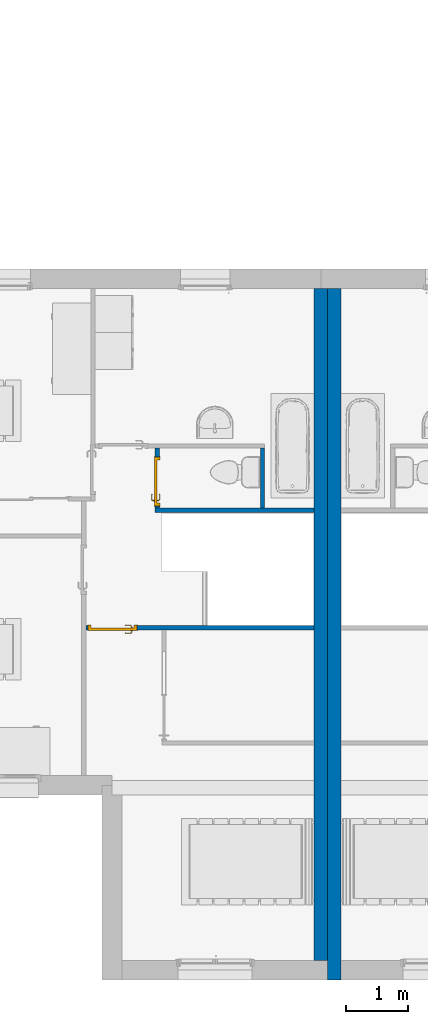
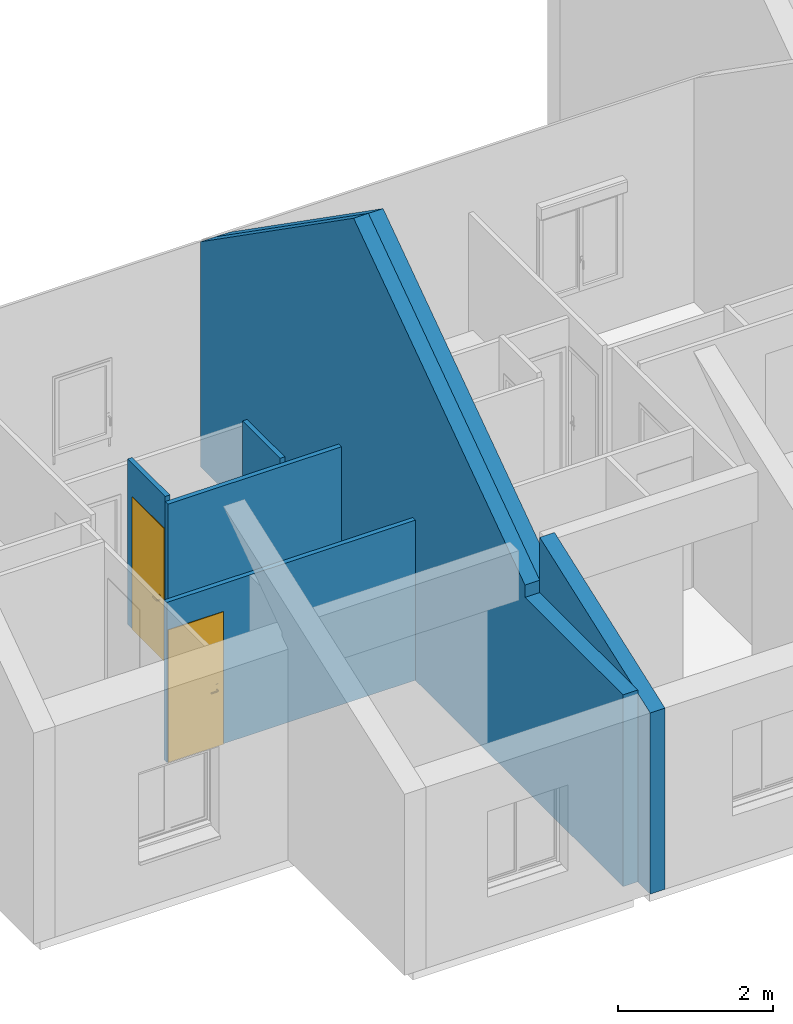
# One storey, part 12 of 61: 6 walls, 2 doors, 2 openings.
"""IFC2X3 building model written with IfcOpenShell, lengths in metres."""

import ifcopenshell
import ifcopenshell.guid

model = None  # the IFC model being written
_history = None  # IfcOwnerHistory: only IFC2X3 demands one
_inside = {}  # id of a spatial element -> (the spatial element, [elements in it])
_under = {}  # id of a project, library or spatial element -> (it, [spatial elements below it])
_declared = {}  # id of a project -> (the project, [libraries it declares])
_typed = {}  # id of a type object -> (the type object, [elements of that type])
_made_of = {}  # id of a material, layer set ... -> (it, [elements and type objects made of it])


def new_model(schema):
    """Start an empty IFC model of exactly this schema.

    Asked for "IFC4X3", IfcOpenShell would pick the latest addendum, in which some entities
    have other attributes; the version numbers below select the first issue.
    IFC2X3 requires an IfcOwnerHistory on every rooted entity: one is made here for all.
    """
    global model, _history
    if schema == "IFC4X3":
        model = ifcopenshell.file(schema_version=(4, 3, 0, 0))
    else:
        model = ifcopenshell.file(schema=schema)
    _inside.clear()
    _under.clear()
    _declared.clear()
    _typed.clear()
    _made_of.clear()
    _history = None
    if model.schema == "IFC2X3":
        org = make("IfcOrganization", Name="unknown")
        user = make(
            "IfcPersonAndOrganization",
            ThePerson=make("IfcPerson", FamilyName="unknown"),
            TheOrganization=org,
        )
        app = make(
            "IfcApplication",
            ApplicationDeveloper=org,
            Version="unknown",
            ApplicationFullName="unknown",
            ApplicationIdentifier="unknown",
        )
        _history = make(
            "IfcOwnerHistory",
            OwningUser=user,
            OwningApplication=app,
            ChangeAction="ADDED",
            CreationDate=0,
        )
    return model


def make(cls, **values):
    """One entity of the class cls with the attributes given. An attribute that is None is left unset."""
    return model.create_entity(
        cls, **{name: value for name, value in values.items() if value is not None}
    )


def entity(cls, *values):
    """Any entity or typed value of the class cls, its attributes in the order of the schema. None: left unset."""
    e = model.create_entity(cls)
    for i, value in enumerate(values):
        if value is not None:
            e[i] = value
    return e


def rooted(cls, **values):
    """An entity with a GlobalId (a new one), such as an element, a storey or a relation."""
    return make(cls, GlobalId=ifcopenshell.guid.new(), OwnerHistory=_history, **values)


def si_unit(unit_type, name, prefix=None):
    """IfcSIUnit, for example si_unit("LENGTHUNIT", "METRE", prefix="MILLI")."""
    return make("IfcSIUnit", UnitType=unit_type, Prefix=prefix, Name=name)


def converted_unit(unit_type, name, factor, base, dimensions=None, offset=None):
    """IfcConversionBasedUnit, such as the inch: factor (a typed value) times the base unit."""
    return make(
        "IfcConversionBasedUnit"
        if offset is None
        else "IfcConversionBasedUnitWithOffset",
        ConversionOffset=offset,
        Dimensions=None
        if dimensions is None
        else entity("IfcDimensionalExponents", *dimensions),
        UnitType=unit_type,
        Name=name,
        ConversionFactor=make(
            "IfcMeasureWithUnit", ValueComponent=factor, UnitComponent=base
        ),
    )


def derived_unit(unit_type, elements):
    """IfcDerivedUnit: a product of units, each with its exponent."""
    return make(
        "IfcDerivedUnit",
        Elements=[
            make("IfcDerivedUnitElement", Unit=unit, Exponent=power)
            for unit, power in elements
        ],
        UnitType=unit_type,
    )


def assignment(units):
    """IfcUnitAssignment: the units of a project."""
    return None if units is None else make("IfcUnitAssignment", Units=units)


def point(xyz):
    """IfcCartesianPoint."""
    return None if xyz is None else make("IfcCartesianPoint", Coordinates=xyz)


def direction(xyz):
    """IfcDirection."""
    return None if xyz is None else make("IfcDirection", DirectionRatios=xyz)


def frame(location, z_axis=None, x_axis=None):
    """IfcAxis2Placement3D, a coordinate frame: its origin and axes. An axis left out is left unset."""
    return make(
        "IfcAxis2Placement3D",
        Location=point(location),
        Axis=direction(z_axis),
        RefDirection=direction(x_axis),
    )


def frame_2d(location, x_axis=None):
    """IfcAxis2Placement2D, a coordinate frame in the plane: its origin and x axis."""
    return make(
        "IfcAxis2Placement2D", Location=point(location), RefDirection=direction(x_axis)
    )


def origin():
    """The frame at (0, 0, 0) with its axes left unset."""
    return frame((0.0, 0.0, 0.0))


def place(relative_to, where):
    """IfcLocalPlacement: puts the frame where relative to a parent placement (None: the world)."""
    return make(
        "IfcLocalPlacement", PlacementRelTo=relative_to, RelativePlacement=where
    )


def context(
    kind, dimensions, precision=None, world=None, true_north=None, identifier=None
):
    """IfcGeometricRepresentationContext, for example the 3D "Model" context."""
    return make(
        "IfcGeometricRepresentationContext",
        ContextIdentifier=identifier,
        ContextType=kind,
        CoordinateSpaceDimension=dimensions,
        Precision=precision,
        WorldCoordinateSystem=world,
        TrueNorth=true_north,
    )


def subcontext(parent, identifier, kind, view, scale=None):
    """IfcGeometricRepresentationSubContext, for example "Body" below "Model"."""
    return make(
        "IfcGeometricRepresentationSubContext",
        ContextIdentifier=identifier,
        ContextType=kind,
        ParentContext=parent,
        TargetScale=scale,
        TargetView=view,
    )


def project(units=None, contexts=None):
    """IfcProject with its units and contexts."""
    return rooted(
        "IfcProject",
        Name="project",
        RepresentationContexts=contexts,
        UnitsInContext=assignment(units),
    )


def spatial(cls, under=None, at=None, **own):
    """A site, building, storey or space (cls), placed at a placement, below another one or the project."""
    s = rooted(cls, ObjectPlacement=at, **own)
    if under is not None:
        _under.setdefault(under.id(), (under, []))[1].append(s)
    return s


def polyline(points):
    """IfcPolyline through the points."""
    return make("IfcPolyline", Points=[point(p) for p in points])


def profile(cls, at=None, kind="AREA", **sizes):
    """A parametric profile (cls). Its sizes go by their IFC names, for example OverallWidth=200.0."""
    return make(cls, ProfileType=kind, Position=at, **sizes)


def rectangle(**sizes):
    """IfcRectangleProfileDef."""
    return profile("IfcRectangleProfileDef", **sizes)


def extrude(swept, where, along, depth):
    """IfcExtrudedAreaSolid: the profile swept, set in the frame where, extruded along a direction by depth."""
    return make(
        "IfcExtrudedAreaSolid",
        SweptArea=swept,
        Position=where,
        ExtrudedDirection=direction(along),
        Depth=depth,
    )


def clip(a, b, op="DIFFERENCE"):
    """IfcBooleanClippingResult: the solid a cut by the half space b."""
    return make(
        "IfcBooleanClippingResult", Operator=op, FirstOperand=a, SecondOperand=b
    )


def bounded_halfspace(plane, agree, where, boundary):
    """IfcPolygonalBoundedHalfSpace: a half space limited to a polygon's prism."""
    return make(
        "IfcPolygonalBoundedHalfSpace",
        BaseSurface=make("IfcPlane", Position=plane),
        AgreementFlag=agree,
        Position=where,
        PolygonalBoundary=boundary,
    )


def faces_of(points, faces, orient=None, outer=None):
    """IfcFace entities. A face is a list of loops; a loop is a list of indices into points, from 0.

    orient and outer hold one flag for each loop. By default every Orientation is true, the
    first loop of a face is its IfcFaceOuterBound and the others are IfcFaceBound.
    """
    made = []
    for i, loops in enumerate(faces):
        bounds = []
        for j, loop in enumerate(loops):
            is_outer = j == 0 if outer is None else outer[i][j]
            bounds.append(
                make(
                    "IfcFaceOuterBound" if is_outer else "IfcFaceBound",
                    Bound=make("IfcPolyLoop", Polygon=[points[k] for k in loop]),
                    Orientation=True if orient is None else orient[i][j],
                )
            )
        made.append(make("IfcFace", Bounds=bounds))
    return made


def faceted_brep(points, faces, orient=None, outer=None, voids=None):
    """IfcFacetedBrep: a solid bounded by flat faces; with voids (closed shells), ...WithVoids."""
    shared = [point(p) for p in points]
    hull = make("IfcClosedShell", CfsFaces=faces_of(shared, faces, orient, outer))
    if voids is None:
        return make("IfcFacetedBrep", Outer=hull)
    return make(
        "IfcFacetedBrepWithVoids",
        Outer=hull,
        Voids=[
            make(cls, CfsFaces=faces_of(shared, fs, o, b)) for cls, fs, o, b in voids
        ],
    )


def shape(context_of_items, identifier, shape_type, items):
    """IfcShapeRepresentation: the items that make up one representation, for example the "Body"."""
    return make(
        "IfcShapeRepresentation",
        ContextOfItems=context_of_items,
        RepresentationIdentifier=identifier,
        RepresentationType=shape_type,
        Items=items,
    )


def source(mapping_origin, context_of_items, identifier, shape_type, items):
    """IfcRepresentationMap: a shape defined once, which mapped items show again and again."""
    return make(
        "IfcRepresentationMap",
        MappingOrigin=mapping_origin,
        MappedRepresentation=shape(context_of_items, identifier, shape_type, items),
    )


def transform(
    local_origin,
    x_axis=None,
    y_axis=None,
    z_axis=None,
    scale=None,
    scale2=None,
    scale3=None,
    uniform=True,
):
    """IfcCartesianTransformationOperator3D, or its non-uniform kind. x_axis, y_axis, z_axis: its Axis1, 2, 3."""
    if uniform:
        return make(
            "IfcCartesianTransformationOperator3D",
            Axis1=direction(x_axis),
            Axis2=direction(y_axis),
            LocalOrigin=point(local_origin),
            Scale=scale,
            Axis3=direction(z_axis),
        )
    return make(
        "IfcCartesianTransformationOperator3DnonUniform",
        Axis1=direction(x_axis),
        Axis2=direction(y_axis),
        LocalOrigin=point(local_origin),
        Scale=scale,
        Axis3=direction(z_axis),
        Scale2=scale2,
        Scale3=scale3,
    )


def mapped(mapping_source, mapping_target):
    """IfcMappedItem: shows the shape of a source again, moved by a transform."""
    return make(
        "IfcMappedItem", MappingSource=mapping_source, MappingTarget=mapping_target
    )


def material(Name=None, Category=None):
    """IfcMaterial."""
    return make("IfcMaterial", Name=Name, Category=Category)


def material_list(materials):
    """IfcMaterialList."""
    return make("IfcMaterialList", Materials=materials)


def layer(
    of_material, thickness, ventilated=None, Name=None, Category=None, Priority=None
):
    """IfcMaterialLayer: one layer of a wall or slab, of a material (None: an air gap)."""
    return make(
        "IfcMaterialLayer",
        Material=of_material,
        LayerThickness=thickness,
        IsVentilated=ventilated,
        Name=Name,
        Category=Category,
        Priority=Priority,
    )


def layer_set(layers, Name=None):
    """IfcMaterialLayerSet."""
    return make("IfcMaterialLayerSet", MaterialLayers=layers, LayerSetName=Name)


def layer_usage(for_layer_set, set_direction, sense, offset, extent=None):
    """IfcMaterialLayerSetUsage: how a layer set lies in its element."""
    return make(
        "IfcMaterialLayerSetUsage",
        ForLayerSet=for_layer_set,
        LayerSetDirection=set_direction,
        DirectionSense=sense,
        OffsetFromReferenceLine=offset,
        ReferenceExtent=extent,
    )


def made_of(thing, what):
    """Note that an element or type object is made of a material, layer set ...; save() writes the relation."""
    if what is not None:
        _made_of.setdefault(what.id(), (what, []))[1].append(thing)
    return thing


def type_object(cls, material=None, **own):
    """A type object (cls), such as IfcWallType, which elements share."""
    return made_of(rooted(cls, **own), material)


def type_shapes(of_type, sources):
    """Give a type object the sources (RepresentationMaps) that its elements show as mapped items."""
    of_type.RepresentationMaps = sources


def element(
    cls,
    number,
    at=None,
    inside=None,
    cuts=None,
    type_object=None,
    material=None,
    context=None,
    identifier="Body",
    shape_type=None,
    held_by="IfcProductDefinitionShape",
    body=None,
    shapes=None,
    **own,
):
    """One element of the class cls, such as IfcWall. Its Tag is "e" and its number.

    at: its placement. inside: the storey or other place that contains it. cuts: it is an
    opening in that element (IfcRelVoidsElement). A single representation is given by context,
    identifier, shape_type and body (its items); several are given by shapes. held_by: the class
    of the entity that holds the representations. save() writes the other relations.
    """
    e = rooted(cls, Tag="e%d" % number, ObjectPlacement=at, **own)
    if body is not None:
        shapes = [shape(context, identifier, shape_type, body)]
    if shapes is not None:
        e.Representation = make(held_by, Representations=shapes)
    if inside is not None:
        _inside.setdefault(inside.id(), (inside, []))[1].append(e)
    if cuts is not None:
        rooted(
            "IfcRelVoidsElement", RelatingBuildingElement=cuts, RelatedOpeningElement=e
        )
    if type_object is not None:
        _typed.setdefault(type_object.id(), (type_object, []))[1].append(e)
    return made_of(e, material)


def fill(opening, filler):
    """IfcRelFillsElement: the door or window that sits in an opening."""
    return rooted(
        "IfcRelFillsElement",
        RelatingOpeningElement=opening,
        RelatedBuildingElement=filler,
    )


def aggregate(whole, parts):
    """IfcRelAggregates: a whole, such as a stair, and the parts it consists of."""
    return rooted("IfcRelAggregates", RelatingObject=whole, RelatedObjects=parts)


def save(model, path):
    """Write the relations noted so far, then the file.

    IfcRelAggregates (storeys below a building ...), IfcRelContainedInSpatialStructure (elements
    in a storey), IfcRelDefinesByType, IfcRelAssociatesMaterial and IfcRelDeclares: one each for
    every whole, place, type object, material and project.
    """
    for whole, parts in _under.values():
        aggregate(whole, parts)
    for where, things in _inside.values():
        rooted(
            "IfcRelContainedInSpatialStructure",
            RelatedElements=things,
            RelatingStructure=where,
        )
    for kind, things in _typed.values():
        rooted("IfcRelDefinesByType", RelatedObjects=things, RelatingType=kind)
    for what, things in _made_of.values():
        rooted("IfcRelAssociatesMaterial", RelatedObjects=things, RelatingMaterial=what)
    for by, libraries in _declared.values():
        rooted("IfcRelDeclares", RelatingContext=by, RelatedDefinitions=libraries)
    model.write(path)


model = new_model("IFC2X3")

# Units and contexts
model_context = context("Model", 3, precision=1e-05, world=origin(), true_north=direction((6.12303176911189e-17, 1.0)))
body_context = subcontext(model_context, "Body", "Model", "MODEL_VIEW")
ifc_project = project(units=[si_unit("LENGTHUNIT", "METRE"), si_unit("AREAUNIT", "SQUARE_METRE"), si_unit("VOLUMEUNIT", "CUBIC_METRE"), converted_unit("PLANEANGLEUNIT", "DEGREE", entity("IfcRatioMeasure", 0.0174532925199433), si_unit("PLANEANGLEUNIT", "RADIAN"), dimensions=[0, 0, 0, 0, 0, 0, 0]), si_unit("MASSUNIT", "GRAM", prefix="KILO"), derived_unit("MASSDENSITYUNIT", [(si_unit("MASSUNIT", "GRAM", prefix="KILO"), 1), (si_unit("LENGTHUNIT", "METRE"), -3)]), si_unit("TIMEUNIT", "SECOND"), si_unit("FREQUENCYUNIT", "HERTZ"), si_unit("THERMODYNAMICTEMPERATUREUNIT", "DEGREE_CELSIUS"), derived_unit("THERMALTRANSMITTANCEUNIT", [(si_unit("MASSUNIT", "GRAM", prefix="KILO"), 1), (si_unit("THERMODYNAMICTEMPERATUREUNIT", "KELVIN"), -1), (si_unit("TIMEUNIT", "SECOND"), -3)]), derived_unit("VOLUMETRICFLOWRATEUNIT", [(si_unit("LENGTHUNIT", "METRE"), 3), (si_unit("TIMEUNIT", "SECOND"), -1)]), si_unit("ELECTRICCURRENTUNIT", "AMPERE"), si_unit("ELECTRICVOLTAGEUNIT", "VOLT"), si_unit("POWERUNIT", "WATT"), si_unit("FORCEUNIT", "NEWTON", prefix="KILO"), si_unit("ILLUMINANCEUNIT", "LUX"), si_unit("LUMINOUSFLUXUNIT", "LUMEN"), si_unit("LUMINOUSINTENSITYUNIT", "CANDELA"), derived_unit("USERDEFINED", [(si_unit("MASSUNIT", "GRAM", prefix="KILO"), -1), (si_unit("LENGTHUNIT", "METRE"), -2), (si_unit("TIMEUNIT", "SECOND"), 3), (si_unit("LUMINOUSFLUXUNIT", "LUMEN"), 1)]), derived_unit("LINEARVELOCITYUNIT", [(si_unit("LENGTHUNIT", "METRE"), 1), (si_unit("TIMEUNIT", "SECOND"), -1)]), si_unit("PRESSUREUNIT", "PASCAL"), derived_unit("USERDEFINED", [(si_unit("LENGTHUNIT", "METRE"), -2), (si_unit("MASSUNIT", "GRAM", prefix="KILO"), 1), (si_unit("TIMEUNIT", "SECOND"), -2)])], contexts=[model_context])

# Site, building, storey
site_placement = place(None, origin())
site = spatial("IfcSite", under=ifc_project, at=site_placement, Name="Surface", CompositionType="ELEMENT")
building_placement = place(site_placement, origin())
building = spatial("IfcBuilding", under=site, at=building_placement, CompositionType="ELEMENT")
storey_placement = place(building_placement, frame((0.0, 0.0, 2.82)))
storey = spatial("IfcBuildingStorey", under=building, at=storey_placement, Name="ETAGE", CompositionType="ELEMENT", Elevation=2.82)

# Wall, opening, door
ifc_material_1 = material(Name="Peinture - Blanc")
ifc_layer_1 = layer(ifc_material_1, 0.07)
ifc_layer_set_1 = layer_set([ifc_layer_1], Name="Mur de base:Int.  Platre 70 mm en blanc")
ifc_layer_usage_1 = layer_usage(ifc_layer_set_1, "AXIS2", "POSITIVE", -0.035)
wall_type_1 = type_object("IfcWallType", Name="Mur de base:Int.  Platre 70 mm en blanc", PredefinedType="STANDARD", material=ifc_layer_set_1)
wall_1_placement = place(storey_placement, frame((64.9146263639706, 82.6027566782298, 0.0)))
wall_1 = element("IfcWallStandardCase", 1, at=wall_1_placement, inside=storey, type_object=wall_type_1, material=ifc_layer_usage_1, Name="Mur de base:Int.  Platre 70 mm en blanc", ObjectType="Mur de base:Int.  Platre 70 mm en blanc", context=body_context, shape_type="SweptSolid", body=[
    extrude(rectangle(XDim=3.70038340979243, YDim=0.0699999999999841, at=frame_2d((1.85019170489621, -3.51801920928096e-15), x_axis=(-1.0, 0.0))), origin(), (0.0, 0.0, 1.0), 2.52),
])
opening_1_placement = place(wall_1_placement, frame((0.829999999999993, 0.0350000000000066, 0.0)))
opening_1 = element("IfcOpeningElement", 2, at=opening_1_placement, cuts=wall_1, Name="FR_Simple (R):73 x 204 - (70):1", ObjectType="Opening", context=body_context, shape_type="SweptSolid", body=[
    extrude(rectangle(XDim=2.075, YDim=0.799999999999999, at=frame_2d((1.0375, 0.4), x_axis=(1.0, 0.0))), frame((0.0, 0.0, 0.0), z_axis=(0.0, -1.0, 0.0), x_axis=(0.0, 0.0, 1.0)), (0.0, 0.0, 1.0), 0.07),
])
ifc_material_2 = material(Name="Poignée Porte")
ifc_material_3 = material(Name="Dormants Portes")
ifc_material_4 = material(Name="Panneaux Portes")
ifc_material_list_1 = material_list([ifc_material_2, ifc_material_3, ifc_material_4])
ifc_material_list_2 = material_list([ifc_material_2, ifc_material_3, ifc_material_4])
door_style = type_object("IfcDoorStyle", Name="73 x 204 - (70)", ConstructionType="NOTDEFINED", OperationType="SINGLE_SWING_RIGHT", ParameterTakesPrecedence=False, Sizeable=False, material=ifc_material_list_2)
shared_shape = source(origin(), body_context, "Body", "Brep", [
    faceted_brep([(0.710000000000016, -0.0130000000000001, 0.764641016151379), (0.720352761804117, -0.0130000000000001, 0.766003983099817), (0.730000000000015, -0.0130000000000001, 0.770000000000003), (0.730000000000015, -0.0130000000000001, 0.980000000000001), (0.720352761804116, -0.0130000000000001, 0.983996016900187), (0.710000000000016, -0.0130000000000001, 0.985358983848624), (0.699647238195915, -0.0130000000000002, 0.983996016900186), (0.690000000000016, -0.0130000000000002, 0.980000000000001), (0.690000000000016, -0.0130000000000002, 0.770000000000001), (0.699647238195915, -0.0130000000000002, 0.766003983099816), (0.730000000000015, -0.00800000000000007, 0.980000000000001), (0.730000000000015, -0.00800000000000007, 0.770000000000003), (0.720352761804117, -0.0080000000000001, 0.766003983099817), (0.710000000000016, -0.00800000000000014, 0.764641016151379), (0.699647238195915, -0.00800000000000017, 0.766003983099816), (0.690000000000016, -0.00800000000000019, 0.770000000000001), (0.690000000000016, -0.00800000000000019, 0.980000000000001), (0.699647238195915, -0.00800000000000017, 0.983996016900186), (0.710000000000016, -0.00800000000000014, 0.985358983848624), (0.720352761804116, -0.0080000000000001, 0.983996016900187)], [[[0, 1, 2, 3, 4, 5, 6, 7, 8, 9]], [[10, 11, 12, 13, 14, 15, 16, 17, 18, 19]], [[1, 12, 11, 2]], [[0, 13, 12, 1]], [[9, 14, 13, 0]], [[9, 8, 15, 14]], [[15, 8, 7, 16]], [[6, 17, 16, 7]], [[5, 18, 17, 6]], [[4, 19, 18, 5]], [[4, 3, 10, 19]], [[10, 3, 2, 11]]]),
    faceted_brep([(0.730000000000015, 0.0319999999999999, 0.770000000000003), (0.730000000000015, 0.0319999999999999, 0.980000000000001), (0.720352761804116, 0.0319999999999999, 0.983996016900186), (0.710000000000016, 0.0319999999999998, 0.985358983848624), (0.699647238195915, 0.0319999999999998, 0.983996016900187), (0.690000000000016, 0.0319999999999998, 0.980000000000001), (0.690000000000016, 0.0319999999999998, 0.770000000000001), (0.699647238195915, 0.0319999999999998, 0.766003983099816), (0.710000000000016, 0.0319999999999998, 0.764641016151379), (0.720352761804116, 0.0319999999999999, 0.766003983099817), (0.710000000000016, 0.0369999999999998, 0.985358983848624), (0.720352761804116, 0.0369999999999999, 0.983996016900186), (0.730000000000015, 0.0369999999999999, 0.980000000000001), (0.730000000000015, 0.0369999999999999, 0.770000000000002), (0.720352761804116, 0.0369999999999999, 0.766003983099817), (0.710000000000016, 0.0369999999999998, 0.764641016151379), (0.699647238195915, 0.0369999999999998, 0.766003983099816), (0.690000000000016, 0.0369999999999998, 0.770000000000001), (0.690000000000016, 0.0369999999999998, 0.980000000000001), (0.699647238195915, 0.0369999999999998, 0.983996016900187)], [[[0, 1, 2, 3, 4, 5, 6, 7, 8, 9]], [[10, 11, 12, 13, 14, 15, 16, 17, 18, 19]], [[4, 19, 18, 5]], [[3, 10, 19, 4]], [[2, 11, 10, 3]], [[2, 1, 12, 11]], [[12, 1, 0, 13]], [[9, 14, 13, 0]], [[8, 15, 14, 9]], [[7, 16, 15, 8]], [[7, 6, 17, 16]], [[17, 6, 5, 18]]]),
    faceted_brep([(0.707974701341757, -0.0130000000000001, 0.907780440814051), (0.712025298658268, -0.0130000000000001, 0.907780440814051), (0.716000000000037, -0.0130000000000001, 0.906999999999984), (0.716000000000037, -0.0130000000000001, 0.892999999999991), (0.712025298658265, -0.0130000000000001, 0.892219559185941), (0.707974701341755, -0.0130000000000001, 0.89221955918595), (0.703999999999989, -0.0130000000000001, 0.893000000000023), (0.703999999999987, -0.0130000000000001, 0.90699999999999), (0.712025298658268, -0.0390045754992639, 0.907780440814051), (0.716000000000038, -0.0406509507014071, 0.906999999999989), (0.707974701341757, -0.0373267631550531, 0.907780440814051), (0.694298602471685, -0.0510028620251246, 0.907780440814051), (0.695976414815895, -0.0550534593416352, 0.907780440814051), (0.609142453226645, -0.0550534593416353, 0.90778044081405), (0.610820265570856, -0.0510028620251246, 0.90778044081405), (0.604342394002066, -0.0445249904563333, 0.90778044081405), (0.601478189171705, -0.0473891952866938, 0.90778044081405), (0.703999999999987, -0.0356803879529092, 0.90699999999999), (0.703999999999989, -0.0356803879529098, 0.893000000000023), (0.707974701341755, -0.0373267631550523, 0.89221955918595), (0.712025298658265, -0.0390045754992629, 0.89221955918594), (0.695976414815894, -0.0550534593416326, 0.89221955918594), (0.694298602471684, -0.0510028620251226, 0.89221955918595), (0.610820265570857, -0.0510028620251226, 0.89221955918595), (0.609142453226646, -0.0550534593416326, 0.89221955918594), (0.601478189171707, -0.0473891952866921, 0.89221955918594), (0.604342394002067, -0.044524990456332, 0.89221955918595), (0.716000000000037, -0.0406509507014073, 0.892999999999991), (0.69762279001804, -0.059028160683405, 0.906999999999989), (0.692652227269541, -0.0470281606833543, 0.90699999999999), (0.692652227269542, -0.0470281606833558, 0.893000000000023), (0.697622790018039, -0.0590281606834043, 0.892999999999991), (0.65255943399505, -0.053182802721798, 0.907878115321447), (0.657692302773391, -0.0590281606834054, 0.906999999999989), (0.607496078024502, -0.0590281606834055, 0.906999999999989), (0.652559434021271, -0.0470281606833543, 0.90699999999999), (0.612466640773, -0.0470281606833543, 0.906999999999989), (0.652559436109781, -0.0470281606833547, 0.893000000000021), (0.612466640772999, -0.0470281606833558, 0.893000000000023), (0.652559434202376, -0.0531828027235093, 0.892121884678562), (0.647426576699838, -0.0590281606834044, 0.892999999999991), (0.607496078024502, -0.0590281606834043, 0.892999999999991), (0.607152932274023, -0.0417144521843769, 0.89300000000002), (0.598667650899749, -0.0501997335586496, 0.892999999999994), (0.598667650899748, -0.0501997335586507, 0.906999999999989), (0.607152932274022, -0.0417144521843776, 0.906999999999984)], [[[0, 1, 2, 3, 4, 5, 6, 7]], [[2, 1, 8, 9]], [[1, 0, 10, 11, 12, 8]], [[13, 14, 15, 16]], [[0, 7, 17, 10]], [[18, 17, 7, 6]], [[5, 19, 18, 6]], [[5, 4, 20, 21, 22, 19]], [[23, 24, 25, 26]], [[3, 27, 20, 4]], [[9, 27, 3, 2]], [[9, 8, 12, 28]], [[10, 17, 29, 11]], [[30, 29, 17, 18]], [[18, 19, 22, 30]], [[20, 27, 31, 21]], [[28, 31, 27, 9]], [[12, 32, 33]], [[13, 33, 32]], [[33, 28, 12]], [[33, 13, 34]], [[11, 35, 32]], [[32, 12, 11]], [[32, 35, 14]], [[35, 11, 29]], [[36, 14, 35]], [[13, 32, 14]], [[30, 37, 38, 36, 35, 29]], [[39, 37, 22]], [[40, 41, 24]], [[40, 21, 31]], [[39, 21, 40]], [[23, 37, 39]], [[39, 24, 23]], [[30, 22, 37]], [[37, 23, 38]], [[21, 39, 22]], [[24, 39, 40]], [[31, 28, 33, 34, 41, 40]], [[42, 26, 25, 43, 44, 16, 15, 45]], [[13, 16, 44, 34]], [[36, 45, 15, 14]], [[42, 45, 36, 38]], [[38, 23, 26, 42]], [[24, 41, 43, 25]], [[44, 43, 41, 34]]]),
    faceted_brep([(0.712025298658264, 0.0369999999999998, 0.907780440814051), (0.707974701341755, 0.0369999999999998, 0.907780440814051), (0.703999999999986, 0.0369999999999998, 0.90699999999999), (0.703999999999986, 0.0369999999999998, 0.89300000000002), (0.707974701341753, 0.0369999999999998, 0.892219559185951), (0.712025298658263, 0.0369999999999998, 0.892219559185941), (0.716000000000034, 0.0369999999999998, 0.892999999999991), (0.716000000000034, 0.0369999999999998, 0.90699999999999), (0.703999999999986, 0.0594852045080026, 0.90699999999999), (0.703999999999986, 0.0594852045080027, 0.89300000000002), (0.707974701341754, 0.0611315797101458, 0.907780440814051), (0.712025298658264, 0.0628093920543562, 0.907780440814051), (0.695838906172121, 0.0789957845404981, 0.907780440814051), (0.69416109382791, 0.0749451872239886, 0.907780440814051), (0.610793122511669, 0.0749451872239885, 0.907780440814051), (0.609115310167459, 0.0789957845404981, 0.907780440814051), (0.601451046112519, 0.071331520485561, 0.907780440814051), (0.604315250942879, 0.0684673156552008, 0.907780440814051), (0.716000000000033, 0.0644557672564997, 0.90699999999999), (0.716000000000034, 0.0644557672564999, 0.892999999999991), (0.712025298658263, 0.0628093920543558, 0.892219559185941), (0.707974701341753, 0.0611315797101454, 0.892219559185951), (0.69416109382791, 0.0749451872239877, 0.892219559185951), (0.69583890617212, 0.0789957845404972, 0.892219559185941), (0.609115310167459, 0.0789957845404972, 0.89221955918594), (0.610793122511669, 0.0749451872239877, 0.89221955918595), (0.60431525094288, 0.0684673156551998, 0.89221955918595), (0.60145104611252, 0.07133152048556, 0.89221955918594), (0.692514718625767, 0.07097048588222, 0.89300000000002), (0.692514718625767, 0.0709704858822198, 0.90699999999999), (0.697485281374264, 0.0829704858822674, 0.90699999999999), (0.697485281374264, 0.082970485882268, 0.892999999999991), (0.652477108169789, 0.0709704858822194, 0.90699999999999), (0.612439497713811, 0.0709704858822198, 0.90699999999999), (0.612439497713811, 0.0709704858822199, 0.89300000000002), (0.652477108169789, 0.0709704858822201, 0.89300000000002), (0.652477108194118, 0.0771249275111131, 0.907878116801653), (0.647399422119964, 0.0829704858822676, 0.90699999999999), (0.607468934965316, 0.0829704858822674, 0.90699999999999), (0.657554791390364, 0.0829704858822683, 0.892999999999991), (0.607468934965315, 0.082970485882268, 0.892999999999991), (0.65247710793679, 0.0771249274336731, 0.892121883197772), (0.598640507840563, 0.0741420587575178, 0.90699999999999), (0.598640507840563, 0.074142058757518, 0.892999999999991), (0.607125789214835, 0.0656567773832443, 0.89300000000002), (0.607125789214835, 0.0656567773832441, 0.90699999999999)], [[[0, 1, 2, 3, 4, 5, 6, 7]], [[8, 9, 3, 2]], [[1, 10, 8, 2]], [[1, 0, 11, 12, 13, 10]], [[14, 15, 16, 17]], [[7, 18, 11, 0]], [[18, 7, 6, 19]], [[6, 5, 20, 19]], [[5, 4, 21, 22, 23, 20]], [[24, 25, 26, 27]], [[4, 3, 9, 21]], [[28, 9, 8, 29]], [[8, 10, 13, 29]], [[18, 30, 12, 11]], [[31, 30, 18, 19]], [[19, 20, 23, 31]], [[21, 9, 28, 22]], [[28, 29, 32, 33, 34, 35]], [[36, 32, 13]], [[37, 38, 15]], [[37, 12, 30]], [[36, 12, 37]], [[14, 32, 36]], [[36, 15, 14]], [[29, 13, 32]], [[32, 14, 33]], [[12, 36, 13]], [[15, 36, 37]], [[30, 31, 39, 40, 38, 37]], [[23, 41, 39]], [[24, 39, 41]], [[39, 31, 23]], [[39, 24, 40]], [[22, 35, 41]], [[41, 23, 22]], [[41, 35, 25]], [[35, 22, 28]], [[34, 25, 35]], [[24, 41, 25]], [[17, 16, 42, 43, 27, 26, 44, 45]], [[44, 34, 33, 45]], [[33, 14, 17, 45]], [[15, 38, 42, 16]], [[42, 38, 40, 43]], [[24, 27, 43, 40]], [[34, 44, 26, 25]]]),
    faceted_brep([(0.800000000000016, 0.0, 0.0), (0.810000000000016, 0.0, 0.0), (0.810000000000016, -0.00799999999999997, 0.0), (0.765000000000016, -0.00799999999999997, 0.0), (0.765000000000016, 0.032, 0.0), (0.750000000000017, 0.032, 0.0), (0.750000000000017, 0.0780000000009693, 0.0), (0.810000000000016, 0.0780000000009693, 0.0), (0.810000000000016, 0.0700000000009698, 0.0), (0.800000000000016, 0.0700000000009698, 0.0), (0.800000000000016, 0.0700000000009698, 2.075), (0.800000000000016, 0.0, 2.075), (0.810000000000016, 0.0700000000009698, 2.085), (-0.00999999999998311, 0.0700000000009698, 2.085), (-0.00999999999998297, 0.0700000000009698, 0.0), (0.0, 0.0700000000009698, 0.0), (0.0, 0.0700000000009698, 2.075), (0.810000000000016, 0.0780000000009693, 2.085), (0.750000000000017, 0.0780000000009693, 2.025), (0.0500000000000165, 0.0780000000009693, 2.025), (0.0500000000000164, 0.0780000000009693, 0.0), (-0.00999999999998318, 0.0780000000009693, 0.0), (-0.00999999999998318, 0.0780000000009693, 2.085), (0.750000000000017, 0.032, 2.025), (0.765000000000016, 0.032, 2.04), (0.0350000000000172, 0.032, 2.04), (0.0350000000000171, 0.032, 0.0), (0.0500000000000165, 0.032, 0.0), (0.0500000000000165, 0.032, 2.025), (0.765000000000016, -0.00799999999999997, 2.04), (0.810000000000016, -0.00799999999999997, 2.085), (-0.00999999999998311, -0.00799999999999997, 2.085), (-0.0099999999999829, -0.00799999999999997, 0.0), (0.0350000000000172, -0.00799999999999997, 0.0), (0.0350000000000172, -0.00799999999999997, 2.04), (0.810000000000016, 0.0, 2.085), (0.0, 0.0, 2.075), (0.0, 0.0, 0.0), (-0.00999999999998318, 0.0, 0.0), (-0.00999999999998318, 0.0, 2.085)], [[[0, 1, 2, 3, 4, 5, 6, 7, 8, 9]], [[9, 10, 11, 0]], [[8, 12, 13, 14, 15, 16, 10, 9]], [[7, 17, 12, 8]], [[6, 18, 19, 20, 21, 22, 17, 7]], [[5, 23, 18, 6]], [[4, 24, 25, 26, 27, 28, 23, 5]], [[3, 29, 24, 4]], [[2, 30, 31, 32, 33, 34, 29, 3]], [[1, 35, 30, 2]], [[0, 11, 36, 37, 38, 39, 35, 1]], [[10, 16, 36, 11]], [[17, 22, 13, 12]], [[23, 28, 19, 18]], [[29, 34, 25, 24]], [[35, 39, 31, 30]], [[37, 15, 14, 21, 20, 27, 26, 33, 32, 38]], [[16, 15, 37, 36]], [[22, 21, 14, 13]], [[28, 27, 20, 19]], [[34, 33, 26, 25]], [[39, 38, 32, 31]]]),
    faceted_brep([(0.765000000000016, -0.00799999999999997, 2.04), (0.0350000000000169, -0.00799999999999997, 2.04), (0.0350000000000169, -0.00799999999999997, 0.0), (0.765000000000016, -0.00799999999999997, 0.0), (0.765000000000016, 0.032, 2.04), (0.765000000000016, 0.032, 0.0), (0.0350000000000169, 0.032, 0.0), (0.0350000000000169, 0.032, 2.04)], [[[0, 1, 2, 3]], [[4, 5, 6, 7]], [[3, 5, 4, 0]], [[2, 6, 5, 3]], [[1, 7, 6, 2]], [[0, 4, 7, 1]]]),
])
type_shapes(door_style, [shared_shape])
door_1_placement = place(opening_1_placement, frame((-0.800000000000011, -0.0700000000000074, 0.0)))
door_1 = element("IfcDoor", 3, at=door_1_placement, inside=storey, type_object=door_style, material=ifc_material_list_1, Name="FR_Simple (R):73 x 204 - (70)", ObjectType="FR_Simple (R):73 x 204 - (70)", OverallHeight=2.075, OverallWidth=0.8, context=body_context, shape_type="MappedRepresentation", body=[
    mapped(shared_shape, transform((0.0, 0.0, 0.0), scale=1.0)),
])
fill(opening_1, door_1)

# Wall
ifc_layer_usage_2 = layer_usage(ifc_layer_set_1, "AXIS2", "POSITIVE", -0.035)
wall_2_placement = place(storey_placement, frame((68.615009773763, 84.5094372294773, 0.0), z_axis=(0.0, 0.0, 1.0), x_axis=(-1.0, 0.0, 0.0)))
element("IfcWallStandardCase", 4, at=wall_2_placement, inside=storey, type_object=wall_type_1, material=ifc_layer_usage_2, Name="Mur de base:Int.  Platre 70 mm en blanc", ObjectType="Mur de base:Int.  Platre 70 mm en blanc", context=body_context, shape_type="SweptSolid", body=[
    extrude(rectangle(XDim=2.58204916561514, YDim=0.0699999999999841, at=frame_2d((1.29102458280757, 1.6306400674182e-16), x_axis=(-1.0, 0.0))), origin(), (0.0, 0.0, 1.0), 2.52),
])

# Wall, opening, door
ifc_layer_usage_3 = layer_usage(ifc_layer_set_1, "AXIS2", "POSITIVE", -0.035)
wall_3_placement = place(storey_placement, frame((66.0679606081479, 84.5444372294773, 0.0), z_axis=(0.0, 0.0, 1.0), x_axis=(0.0, 1.0, 0.0)))
wall_3 = element("IfcWallStandardCase", 5, at=wall_3_placement, inside=storey, type_object=wall_type_1, material=ifc_layer_usage_3, Name="Mur de base:Int.  Platre 70 mm en blanc", ObjectType="Mur de base:Int.  Platre 70 mm en blanc", context=body_context, shape_type="SweptSolid", body=[
    extrude(rectangle(XDim=0.973319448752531, YDim=0.0700000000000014, at=frame_2d((0.486659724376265, 1.12757025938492e-15), x_axis=(-1.0, 0.0))), origin(), (0.0, 0.0, 1.0), 2.6),
])
opening_2_placement = place(wall_3_placement, frame((0.0333194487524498, -0.0350000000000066, 0.0)))
opening_2 = element("IfcOpeningElement", 6, at=opening_2_placement, cuts=wall_3, Name="FR_Simple (R):73 x 204 - (70):1", ObjectType="Opening", context=body_context, shape_type="SweptSolid", body=[
    extrude(rectangle(XDim=2.075, YDim=0.799999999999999, at=frame_2d((1.0375, 0.4), x_axis=(1.0, 0.0))), frame((0.0, 0.0, 0.0), z_axis=(0.0, 1.0, 0.0), x_axis=(0.0, 0.0, 1.0)), (0.0, 0.0, 1.0), 0.07),
])
ifc_material_list_3 = material_list([ifc_material_2, ifc_material_3, ifc_material_4])
door_2_placement = place(opening_2_placement, frame((0.800000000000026, 0.0700000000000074, 0.0), z_axis=(0.0, 0.0, 1.0), x_axis=(-1.0, 0.0, 0.0)))
door_2 = element("IfcDoor", 7, at=door_2_placement, inside=storey, type_object=door_style, material=ifc_material_list_3, Name="FR_Simple (R):73 x 204 - (70)", ObjectType="FR_Simple (R):73 x 204 - (70)", OverallHeight=2.075, OverallWidth=0.800000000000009, context=body_context, shape_type="MappedRepresentation", body=[
    mapped(shared_shape, transform((0.0, 0.0, 0.0), scale=1.0)),
])
fill(opening_2, door_2)

# Walls
ifc_layer_usage_4 = layer_usage(ifc_layer_set_1, "AXIS2", "POSITIVE", -0.035)
wall_4_placement = place(storey_placement, frame((67.7796263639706, 84.5444372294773, 0.0), z_axis=(0.0, 0.0, 1.0), x_axis=(0.0, 1.0, 0.0)))
element("IfcWallStandardCase", 8, at=wall_4_placement, inside=storey, type_object=wall_type_1, material=ifc_layer_usage_4, Name="Mur de base:Int.  Platre 70 mm en blanc", ObjectType="Mur de base:Int.  Platre 70 mm en blanc", context=body_context, shape_type="SweptSolid", body=[
    extrude(rectangle(XDim=0.973319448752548, YDim=0.0700000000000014, at=frame_2d((0.486659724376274, 1.12757025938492e-15), x_axis=(-1.0, 0.0))), origin(), (0.0, 0.0, 1.0), 2.6),
])
ifc_material_5 = material(Name="Enduit blanc cassé2")
ifc_layer_2 = layer(ifc_material_5, 0.02)
ifc_material_6 = material(Name="Parpaing")
ifc_layer_3 = layer(ifc_material_6, 0.1)
ifc_material_7 = material(Name="Isolant")
ifc_layer_4 = layer(ifc_material_7, 0.1)
ifc_layer_set_2 = layer_set([ifc_layer_2, ifc_layer_3, ifc_layer_4], Name="Mur de base:MITOYEN. Parpaing 10 + Isolant 10+ PLACO 2")
ifc_layer_usage_5 = layer_usage(ifc_layer_set_2, "AXIS2", "NEGATIVE", 0.11)
wall_type_2 = type_object("IfcWallType", Name="Mur de base:MITOYEN. Parpaing 10 + Isolant 10+ PLACO 2", PredefinedType="STANDARD", material=ifc_layer_set_2)
wall_5_placement = place(storey_placement, frame((68.9442429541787, 76.8877566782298, 0.0), z_axis=(0.0, 0.0, 1.0), x_axis=(0.0, 1.0, 0.0)))
element("IfcWallStandardCase", 9, at=wall_5_placement, inside=storey, type_object=wall_type_2, material=ifc_layer_usage_5, Name="Mur de base:MITOYEN. Parpaing 10 + Isolant 10+ PLACO 2", ObjectType="Mur de base:MITOYEN. Parpaing 10 + Isolant 10+ PLACO 2", context=body_context, shape_type="Clipping", body=[
    clip(clip(clip(extrude(rectangle(XDim=11.2200000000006, YDim=0.220000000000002, at=frame_2d((5.61000000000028, 7.35522753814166e-16), x_axis=(-1.0, 0.0))), origin(), (0.0, 0.0, 1.0), 6.30988618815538), bounded_halfspace(frame((11.2200000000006, -0.110000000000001, 3.54406641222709), z_axis=(0.573576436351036, 0.0, 0.819152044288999), x_axis=(0.0, 1.0, 0.0)), False, frame((11.2200000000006, -0.110000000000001, 3.54406641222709)), polyline([(0.0, 0.0), (0.0, 0.220000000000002), (-3.94999999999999, 0.220000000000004), (-3.94999999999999, 0.0), (0.0, 0.0)]))), bounded_halfspace(frame((7.27000000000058, 0.110000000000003, 6.30988618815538), z_axis=(-0.573576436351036, 0.0, 0.819152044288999), x_axis=(0.0, -1.0, 0.0)), False, frame((7.27000000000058, 0.110000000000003, 6.30988618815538)), polyline([(0.0, 0.0), (-4.42, 0.0), (-4.42, -0.220000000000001), (0.0, -0.220000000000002), (0.0, 0.0)]))), bounded_halfspace(frame((0.0, -0.110000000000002, 2.85279404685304), z_axis=(0.342020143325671, 0.0, -0.939692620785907), x_axis=(0.0, 1.0, 0.0)), True, frame((0.0, -0.110000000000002, 2.85279404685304)), polyline([(0.0, 0.0), (0.320000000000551, 0.0), (2.85000000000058, 0.0), (2.85000000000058, 0.220000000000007), (0.319999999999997, 0.220000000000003), (0.0, 0.220000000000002), (0.0, 0.0)]))),
])
ifc_layer_usage_6 = layer_usage(ifc_layer_set_2, "AXIS2", "POSITIVE", -0.11)
wall_6_placement = place(storey_placement, frame((68.7250097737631, 77.2077566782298, 0.0), z_axis=(0.0, 0.0, 1.0), x_axis=(0.0, 1.0, 0.0)))
element("IfcWallStandardCase", 10, at=wall_6_placement, inside=storey, type_object=wall_type_2, material=ifc_layer_usage_6, Name="Mur de base:MITOYEN. Parpaing 10 + Isolant 10+ PLACO 2", ObjectType="Mur de base:MITOYEN. Parpaing 10 + Isolant 10+ PLACO 2", context=body_context, shape_type="Clipping", body=[
    clip(clip(clip(extrude(rectangle(XDim=10.9, YDim=0.220000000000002, at=frame_2d((5.45000000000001, 2.62290189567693e-15), x_axis=(-1.0, 0.0))), origin(), (0.0, 0.0, 1.0), 6.30988618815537), bounded_halfspace(frame((6.95000000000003, -0.109999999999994, 6.30988618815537), z_axis=(0.573576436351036, 0.0, 0.819152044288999), x_axis=(0.0, 1.0, 0.0)), False, frame((6.95000000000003, -0.109999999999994, 6.30988618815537)), polyline([(0.0, 0.0), (3.94999999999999, 0.0), (3.94999999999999, 0.0207668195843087), (3.94999999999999, 0.110000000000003), (3.94999999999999, 0.220000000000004), (0.0, 0.220000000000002), (0.0, 0.0)]))), bounded_halfspace(frame((2.53000000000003, -0.109999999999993, 3.21496886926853), z_axis=(-0.573576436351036, 0.0, 0.819152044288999), x_axis=(0.0, -1.0, 0.0)), False, frame((2.53000000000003, -0.109999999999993, 3.21496886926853)), polyline([(0.0, 0.0), (4.42, 0.0), (4.42000000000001, 0.22), (0.0, 0.220000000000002), (0.0, 0.0)]))), bounded_halfspace(frame((0.0, -0.109999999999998, 3.02), z_axis=(0.0, 0.0, 1.0), x_axis=(0.0, 1.0, 0.0)), False, frame((0.0, -0.109999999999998, 3.02)), polyline([(0.0, 0.0), (2.53000000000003, 0.0), (2.53000000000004, 0.220000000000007), (0.0, 0.220000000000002), (0.0, 0.0)]))),
])

save(model, "model.ifc")
